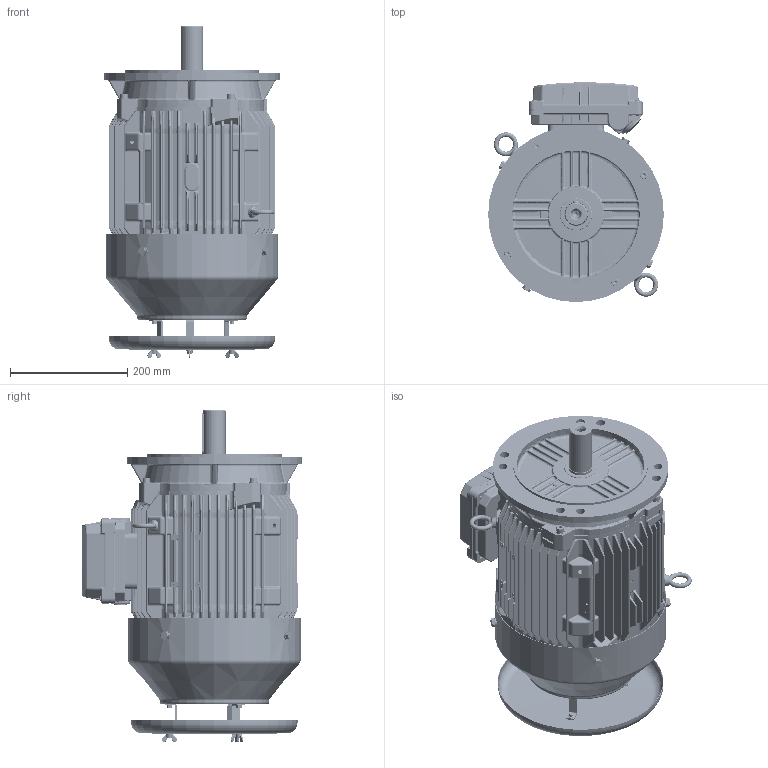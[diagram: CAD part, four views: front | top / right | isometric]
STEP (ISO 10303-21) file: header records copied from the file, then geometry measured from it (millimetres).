
FILE_DESCRIPTION (( 'STEP AP203' ), '1' );
FILE_NAME ('0213200595_RevB.STEP', '2018-07-10T13:33:37', ( '' ), ( '' ), 'SwSTEP 2.0', 'SolidWorks 2015', '' );
FILE_SCHEMA (( 'CONFIG_CONTROL_DESIGN' ));
Length unit declared in the file: inch
Products named in the file (1): 0213200595_RevB
Bounding box: 300 x 376.5 x 567.2 mm (x, y, z)
Volume: 5527736 mm3; surface area: 2020915.3 mm2
Topology: 53 solids, 53 shells, 9003 faces, 22212 edges, 13244 vertices
Faces by surface type: cylinder 3104, bspline 2355, plane 1426, torus 952, cone 904, sphere 262
Entity records: 345766 total; most frequent: CARTESIAN_POINT 148332, ORIENTED_EDGE 43986, DIRECTION 39026, EDGE_CURVE 21993, AXIS2_PLACEMENT_3D 16309, VERTEX_POINT 13236, EDGE_LOOP 9797, CIRCLE 9660
